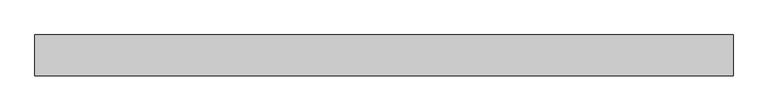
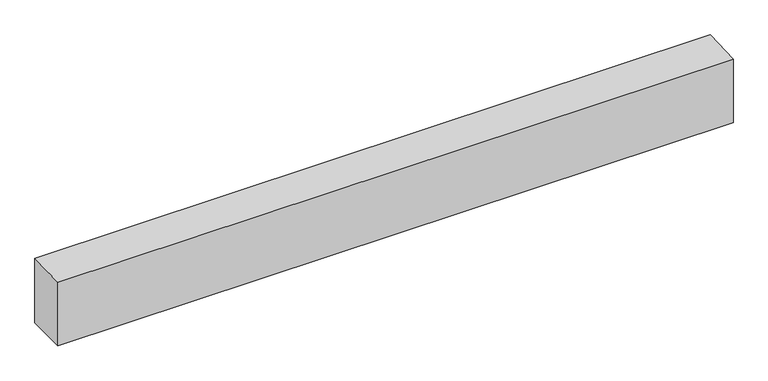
"""IFC4 building model written with IfcOpenShell, lengths in millimetres: proxy geometry, Tête de mur C0b : tête de mur."""

from ifc_helpers import new_model, si_unit, frame, origin, place, context, project, spatial, polyline, outline, extrude, source, transform, mapped, element, save


def generic_models_2c1fe961(model_context):
    return source(origin(), model_context, "Body", "SweptSolid", [
        extrude(outline(polyline([(2700.0, 5208.0), (2900.0, 5216.0), (2900.0, 4871.0), (2700.0, 4871.0), (2700.0, 5208.0)])), frame((-10280.0, 0.0, 0.0), z_axis=(1.0, 0.0, 0.0), x_axis=(0.0, 1.0, 0.0)), (0.0, 0.0, 1.0), 3400.0),
    ])


if __name__ == "__main__":
    model = new_model("IFC4")
    model_context = context("Model", 3, world=origin())
    ifc_project = project(units=[si_unit("LENGTHUNIT", "METRE", prefix="MILLI")], contexts=[model_context])
    site = spatial("IfcSite", under=ifc_project)
    building = spatial("IfcBuilding", under=site)
    placement = place(None, origin())
    generic_models_shape = generic_models_2c1fe961(model_context)
    element("IfcBuildingElementProxy", 1, Name="Tête de mur C0b : tête de mur", ObjectType="Tête de mur C0b : tête de mur", at=placement, inside=building, context=model_context, shape_type="MappedRepresentation", body=[
        mapped(generic_models_shape, transform((0.0, 0.0, 0.0), x_axis=(1.0, 0.0, 0.0), y_axis=(0.0, 1.0, 0.0), z_axis=(0.0, 0.0, 1.0))),
    ])
    save(model, "model.ifc")
